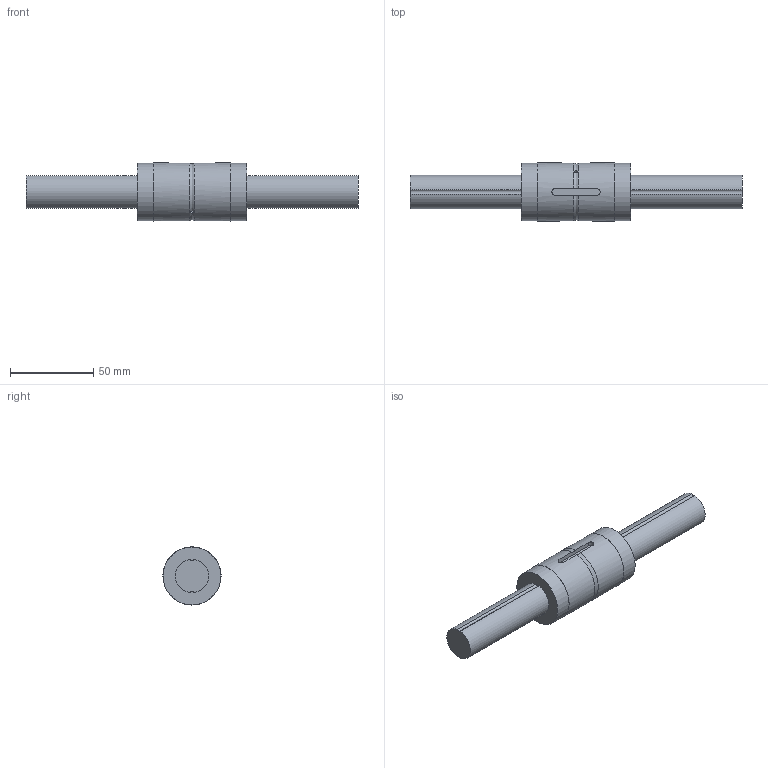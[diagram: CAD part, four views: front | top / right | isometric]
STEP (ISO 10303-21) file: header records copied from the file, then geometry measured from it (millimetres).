
FILE_DESCRIPTION((''),'2;1');
FILE_NAME('C:\Documents and Settings\土屋\My Documents\土屋移動用フォルダ\製品 (図面)\カタログ用3D\ボールスプライン\BSP\BSP20.stp','2015-02-23T13:27:53',('y'),(''),'Autodesk Inventor 11','Autodesk Inventor 11','');
FILE_SCHEMA(('AUTOMOTIVE_DESIGN { 1 0 10303 214 1 1 1 1 }'));
Length unit declared in the file: millimetre
Products named in the file (3): BSP20; BSP20軸; BSP20ナット
Assembly tree (2 placements, depth 2):
  BSP20
    BSP20軸
    BSP20ナット
Bounding box: 200 x 35 x 35 mm (x, y, z)
Volume: 104660.1 mm3; surface area: 26288.1 mm2
Topology: 2 solids, 2 shells, 28 faces, 62 edges, 42 vertices
Faces by surface type: cylinder 15, plane 10, bspline 3
Full cylindrical faces by diameter (mm): 2 x1, 34.8 x2, 35 x2
Entity records: 1073 total; most frequent: CARTESIAN_POINT 405, DIRECTION 134, ORIENTED_EDGE 108, AXIS2_PLACEMENT_3D 58, EDGE_CURVE 54, VERTEX_POINT 40, EDGE_LOOP 40, CIRCLE 28
